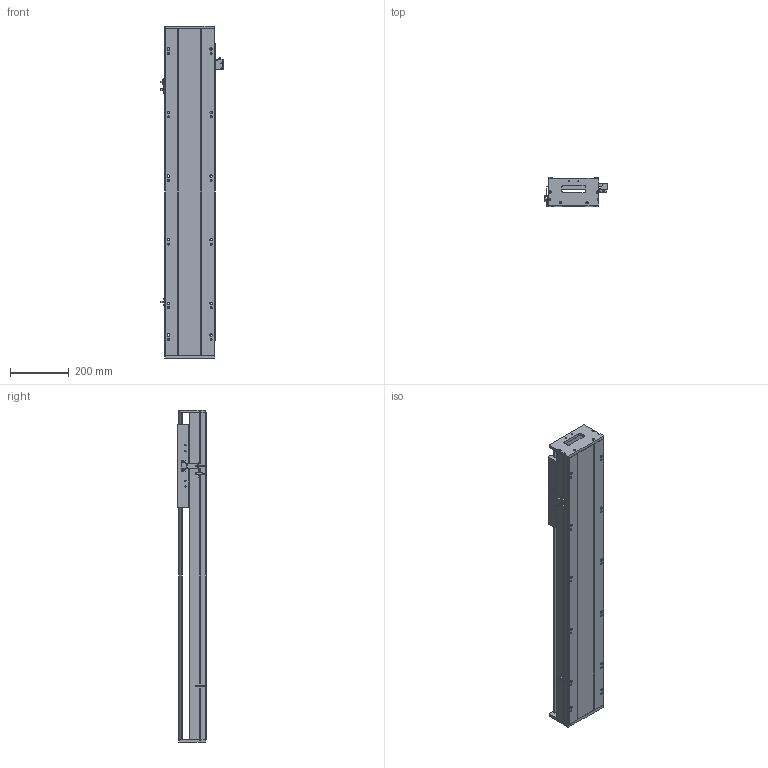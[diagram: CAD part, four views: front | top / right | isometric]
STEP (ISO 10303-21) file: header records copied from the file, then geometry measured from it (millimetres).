
FILE_DESCRIPTION (( 'STEP AP203' ), '1' );
FILE_NAME ('SKR17S-C2-S748（简）.STEP', '2022-09-29T07:44:10', ( '' ), ( '' ), 'SwSTEP 2.0', 'SolidWorks 2018', '' );
FILE_SCHEMA (( 'CONFIG_CONTROL_DESIGN' ));
Length unit declared in the file: millimetre
Products named in the file (8): SIKO棠掑; SKR17S-C2-S748（简）; SKR17滑台-280L（简）; EE-SX672; 棠掑假蚾輸; SKR17菁釱-C2-S748(潠); SKR17耜啣; 感应片（SKR12S-14S-17S）
Assembly tree (10 placements, depth 2):
  SKR17S-C2-S748（简）
    SKR17菁釱-C2-S748(潠)
    SIKO棠掑
    EE-SX672  x3
    SKR17耜啣  x2
    棠掑假蚾輸
    SKR17滑台-280L（简）
    感应片（SKR12S-14S-17S）
Bounding box: 212.7 x 97 x 1128 mm (x, y, z)
Volume: 9339009.7 mm3; surface area: 1197707.5 mm2
Topology: 11 solids, 11 shells, 1096 faces, 3033 edges, 1947 vertices
Faces by surface type: cylinder 511, plane 467, cone 118
Entity records: 32547 total; most frequent: CARTESIAN_POINT 8031, ORIENTED_EDGE 5078, DIRECTION 4801, EDGE_CURVE 2539, AXIS2_PLACEMENT_3D 1701, VERTEX_POINT 1651, VECTOR 1399, LINE 1399
